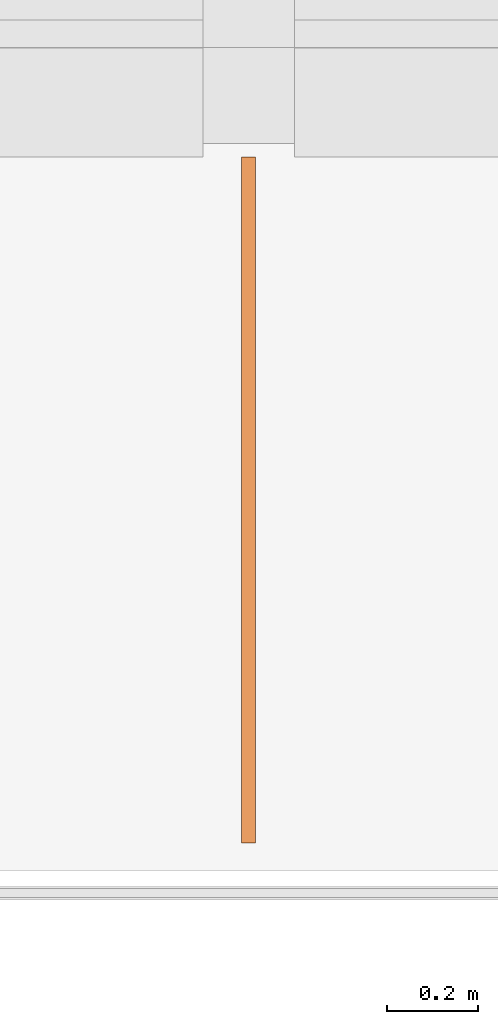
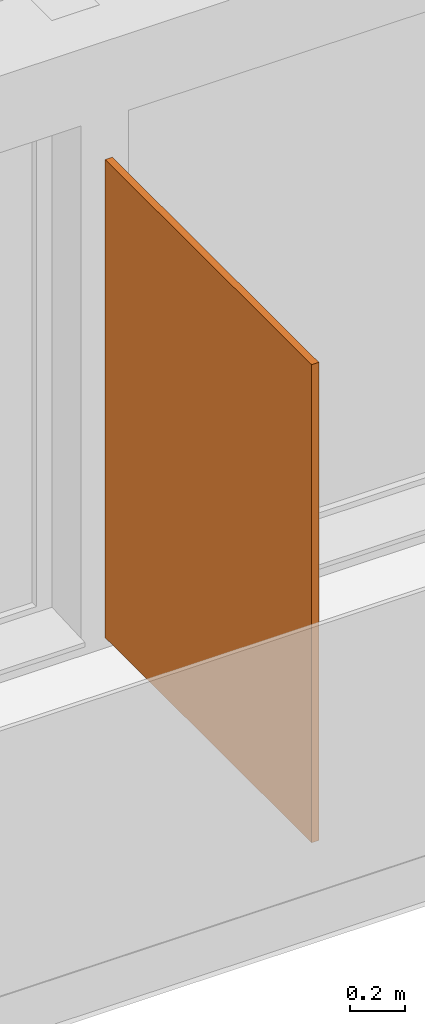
# One storey, part 24 of 61: 1 proxy.
"""IFC2X3 building model written with IfcOpenShell, lengths in millimetres."""

import ifcopenshell
import ifcopenshell.guid

model = None  # the IFC model being written
_history = None  # IfcOwnerHistory: only IFC2X3 demands one
_inside = {}  # id of a spatial element -> (the spatial element, [elements in it])
_under = {}  # id of a project, library or spatial element -> (it, [spatial elements below it])
_declared = {}  # id of a project -> (the project, [libraries it declares])
_typed = {}  # id of a type object -> (the type object, [elements of that type])
_made_of = {}  # id of a material, layer set ... -> (it, [elements and type objects made of it])


def new_model(schema):
    """Start an empty IFC model of exactly this schema.

    Asked for "IFC4X3", IfcOpenShell would pick the latest addendum, in which some entities
    have other attributes; the version numbers below select the first issue.
    IFC2X3 requires an IfcOwnerHistory on every rooted entity: one is made here for all.
    """
    global model, _history
    if schema == "IFC4X3":
        model = ifcopenshell.file(schema_version=(4, 3, 0, 0))
    else:
        model = ifcopenshell.file(schema=schema)
    _inside.clear()
    _under.clear()
    _declared.clear()
    _typed.clear()
    _made_of.clear()
    _history = None
    if model.schema == "IFC2X3":
        org = make("IfcOrganization", Name="unknown")
        user = make(
            "IfcPersonAndOrganization",
            ThePerson=make("IfcPerson", FamilyName="unknown"),
            TheOrganization=org,
        )
        app = make(
            "IfcApplication",
            ApplicationDeveloper=org,
            Version="unknown",
            ApplicationFullName="unknown",
            ApplicationIdentifier="unknown",
        )
        _history = make(
            "IfcOwnerHistory",
            OwningUser=user,
            OwningApplication=app,
            ChangeAction="ADDED",
            CreationDate=0,
        )
    return model


def make(cls, **values):
    """One entity of the class cls with the attributes given. An attribute that is None is left unset."""
    return model.create_entity(
        cls, **{name: value for name, value in values.items() if value is not None}
    )


def entity(cls, *values):
    """Any entity or typed value of the class cls, its attributes in the order of the schema. None: left unset."""
    e = model.create_entity(cls)
    for i, value in enumerate(values):
        if value is not None:
            e[i] = value
    return e


def rooted(cls, **values):
    """An entity with a GlobalId (a new one), such as an element, a storey or a relation."""
    return make(cls, GlobalId=ifcopenshell.guid.new(), OwnerHistory=_history, **values)


def si_unit(unit_type, name, prefix=None):
    """IfcSIUnit, for example si_unit("LENGTHUNIT", "METRE", prefix="MILLI")."""
    return make("IfcSIUnit", UnitType=unit_type, Prefix=prefix, Name=name)


def converted_unit(unit_type, name, factor, base, dimensions=None, offset=None):
    """IfcConversionBasedUnit, such as the inch: factor (a typed value) times the base unit."""
    return make(
        "IfcConversionBasedUnit"
        if offset is None
        else "IfcConversionBasedUnitWithOffset",
        ConversionOffset=offset,
        Dimensions=None
        if dimensions is None
        else entity("IfcDimensionalExponents", *dimensions),
        UnitType=unit_type,
        Name=name,
        ConversionFactor=make(
            "IfcMeasureWithUnit", ValueComponent=factor, UnitComponent=base
        ),
    )


def derived_unit(unit_type, elements):
    """IfcDerivedUnit: a product of units, each with its exponent."""
    return make(
        "IfcDerivedUnit",
        Elements=[
            make("IfcDerivedUnitElement", Unit=unit, Exponent=power)
            for unit, power in elements
        ],
        UnitType=unit_type,
    )


def money_unit(currency):
    """IfcMonetaryUnit."""
    return make("IfcMonetaryUnit", Currency=currency)


def assignment(units):
    """IfcUnitAssignment: the units of a project."""
    return None if units is None else make("IfcUnitAssignment", Units=units)


def point(xyz):
    """IfcCartesianPoint."""
    return None if xyz is None else make("IfcCartesianPoint", Coordinates=xyz)


def direction(xyz):
    """IfcDirection."""
    return None if xyz is None else make("IfcDirection", DirectionRatios=xyz)


def frame(location, z_axis=None, x_axis=None):
    """IfcAxis2Placement3D, a coordinate frame: its origin and axes. An axis left out is left unset."""
    return make(
        "IfcAxis2Placement3D",
        Location=point(location),
        Axis=direction(z_axis),
        RefDirection=direction(x_axis),
    )


def origin_with_axes():
    """The frame at (0, 0, 0) with the z axis (0, 0, 1) and the x axis (1, 0, 0) written out."""
    return frame((0.0, 0.0, 0.0), z_axis=(0.0, 0.0, 1.0), x_axis=(1.0, 0.0, 0.0))


def place(relative_to, where):
    """IfcLocalPlacement: puts the frame where relative to a parent placement (None: the world)."""
    return make(
        "IfcLocalPlacement", PlacementRelTo=relative_to, RelativePlacement=where
    )


def context(
    kind, dimensions, precision=None, world=None, true_north=None, identifier=None
):
    """IfcGeometricRepresentationContext, for example the 3D "Model" context."""
    return make(
        "IfcGeometricRepresentationContext",
        ContextIdentifier=identifier,
        ContextType=kind,
        CoordinateSpaceDimension=dimensions,
        Precision=precision,
        WorldCoordinateSystem=world,
        TrueNorth=true_north,
    )


def subcontext(parent, identifier, kind, view, scale=None):
    """IfcGeometricRepresentationSubContext, for example "Body" below "Model"."""
    return make(
        "IfcGeometricRepresentationSubContext",
        ContextIdentifier=identifier,
        ContextType=kind,
        ParentContext=parent,
        TargetScale=scale,
        TargetView=view,
    )


def project(units=None, contexts=None):
    """IfcProject with its units and contexts."""
    return rooted(
        "IfcProject",
        Name="project",
        RepresentationContexts=contexts,
        UnitsInContext=assignment(units),
    )


def spatial(cls, under=None, at=None, **own):
    """A site, building, storey or space (cls), placed at a placement, below another one or the project."""
    s = rooted(cls, ObjectPlacement=at, **own)
    if under is not None:
        _under.setdefault(under.id(), (under, []))[1].append(s)
    return s


def polyline(points):
    """IfcPolyline through the points."""
    return make("IfcPolyline", Points=[point(p) for p in points])


def outline(outer, holes=None, kind="AREA"):
    """IfcArbitraryClosedProfileDef: a profile drawn as a closed curve; with holes, ...WithVoids."""
    if holes is None:
        return make("IfcArbitraryClosedProfileDef", ProfileType=kind, OuterCurve=outer)
    return make(
        "IfcArbitraryProfileDefWithVoids",
        ProfileType=kind,
        OuterCurve=outer,
        InnerCurves=holes,
    )


def extrude(swept, where, along, depth):
    """IfcExtrudedAreaSolid: the profile swept, set in the frame where, extruded along a direction by depth."""
    return make(
        "IfcExtrudedAreaSolid",
        SweptArea=swept,
        Position=where,
        ExtrudedDirection=direction(along),
        Depth=depth,
    )


def shape(context_of_items, identifier, shape_type, items):
    """IfcShapeRepresentation: the items that make up one representation, for example the "Body"."""
    return make(
        "IfcShapeRepresentation",
        ContextOfItems=context_of_items,
        RepresentationIdentifier=identifier,
        RepresentationType=shape_type,
        Items=items,
    )


def material(Name=None, Category=None):
    """IfcMaterial."""
    return make("IfcMaterial", Name=Name, Category=Category)


def made_of(thing, what):
    """Note that an element or type object is made of a material, layer set ...; save() writes the relation."""
    if what is not None:
        _made_of.setdefault(what.id(), (what, []))[1].append(thing)
    return thing


def type_object(cls, material=None, **own):
    """A type object (cls), such as IfcWallType, which elements share."""
    return made_of(rooted(cls, **own), material)


def element(
    cls,
    number,
    at=None,
    inside=None,
    cuts=None,
    type_object=None,
    material=None,
    context=None,
    identifier="Body",
    shape_type=None,
    held_by="IfcProductDefinitionShape",
    body=None,
    shapes=None,
    **own,
):
    """One element of the class cls, such as IfcWall. Its Tag is "e" and its number.

    at: its placement. inside: the storey or other place that contains it. cuts: it is an
    opening in that element (IfcRelVoidsElement). A single representation is given by context,
    identifier, shape_type and body (its items); several are given by shapes. held_by: the class
    of the entity that holds the representations. save() writes the other relations.
    """
    e = rooted(cls, Tag="e%d" % number, ObjectPlacement=at, **own)
    if body is not None:
        shapes = [shape(context, identifier, shape_type, body)]
    if shapes is not None:
        e.Representation = make(held_by, Representations=shapes)
    if inside is not None:
        _inside.setdefault(inside.id(), (inside, []))[1].append(e)
    if cuts is not None:
        rooted(
            "IfcRelVoidsElement", RelatingBuildingElement=cuts, RelatedOpeningElement=e
        )
    if type_object is not None:
        _typed.setdefault(type_object.id(), (type_object, []))[1].append(e)
    return made_of(e, material)


def aggregate(whole, parts):
    """IfcRelAggregates: a whole, such as a stair, and the parts it consists of."""
    return rooted("IfcRelAggregates", RelatingObject=whole, RelatedObjects=parts)


def save(model, path):
    """Write the relations noted so far, then the file.

    IfcRelAggregates (storeys below a building ...), IfcRelContainedInSpatialStructure (elements
    in a storey), IfcRelDefinesByType, IfcRelAssociatesMaterial and IfcRelDeclares: one each for
    every whole, place, type object, material and project.
    """
    for whole, parts in _under.values():
        aggregate(whole, parts)
    for where, things in _inside.values():
        rooted(
            "IfcRelContainedInSpatialStructure",
            RelatedElements=things,
            RelatingStructure=where,
        )
    for kind, things in _typed.values():
        rooted("IfcRelDefinesByType", RelatedObjects=things, RelatingType=kind)
    for what, things in _made_of.values():
        rooted("IfcRelAssociatesMaterial", RelatedObjects=things, RelatingMaterial=what)
    for by, libraries in _declared.values():
        rooted("IfcRelDeclares", RelatingContext=by, RelatedDefinitions=libraries)
    model.write(path)


model = new_model("IFC2X3")

# Units and contexts
model_context = context("Model", 3, precision=0.01, world=origin_with_axes(), true_north=direction((0.34421633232, 0.938890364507)))
body_context = subcontext(model_context, "Body", "Model", "MODEL_VIEW")
ifc_project = project(units=[si_unit("LENGTHUNIT", "METRE", prefix="MILLI"), si_unit("AREAUNIT", "SQUARE_METRE"), si_unit("VOLUMEUNIT", "CUBIC_METRE"), converted_unit("PLANEANGLEUNIT", "DEGREE", entity("IfcPlaneAngleMeasure", 0.0174532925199), si_unit("PLANEANGLEUNIT", "RADIAN"), dimensions=[0, 0, 0, 0, 0, 0, 0]), si_unit("SOLIDANGLEUNIT", "STERADIAN"), money_unit("USD"), converted_unit("TIMEUNIT", "Year", entity("IfcTimeMeasure", 31556926.0), si_unit("TIMEUNIT", "SECOND"), dimensions=[0, 0, 1, 0, 0, 0, 0]), si_unit("MASSUNIT", "GRAM", prefix="KILO"), si_unit("THERMODYNAMICTEMPERATUREUNIT", "DEGREE_CELSIUS"), si_unit("LUMINOUSINTENSITYUNIT", "LUMEN"), si_unit("ENERGYUNIT", "JOULE", prefix="MEGA"), derived_unit("THERMALCONDUCTANCEUNIT", [(si_unit("POWERUNIT", "WATT"), 1), (si_unit("LENGTHUNIT", "METRE"), -1), (si_unit("THERMODYNAMICTEMPERATUREUNIT", "KELVIN"), -1)]), derived_unit("SPECIFICHEATCAPACITYUNIT", [(si_unit("ENERGYUNIT", "JOULE"), 1), (si_unit("MASSUNIT", "GRAM", prefix="KILO"), -1), (si_unit("THERMODYNAMICTEMPERATUREUNIT", "KELVIN"), -1)]), derived_unit("MASSDENSITYUNIT", [(si_unit("MASSUNIT", "GRAM", prefix="KILO"), 1), (si_unit("VOLUMEUNIT", "CUBIC_METRE"), -1)])], contexts=[model_context])

# Site, building, storey
site_placement = place(None, origin_with_axes())
site = spatial("IfcSite", under=ifc_project, at=site_placement, Name="USTRONIE MORSKIE", CompositionType="ELEMENT")
building_placement = place(site_placement, origin_with_axes())
building = spatial("IfcBuilding", under=site, at=building_placement, Name="Budynek", CompositionType="ELEMENT")
storey_placement = place(building_placement, frame((0.0, 0.0, 13000.0), z_axis=(0.0, 0.0, 1.0), x_axis=(1.0, 0.0, 0.0)))
storey = spatial("IfcBuildingStorey", under=building, at=storey_placement, Name="PIĘTRO 4", CompositionType="ELEMENT", Elevation=13000.0)

# Proxy
ifc_material = material(Name="Woda")
building_element_proxy_type = type_object("IfcBuildingElementProxyType", Name="Woda 30", PredefinedType="NOTDEFINED")
proxy_placement = place(storey_placement, frame((402317.920919, 726561.18631, 20.0), z_axis=(0.0, 0.0, 1.0), x_axis=(0.0, -1.0, 0.0)))
element("IfcBuildingElementProxy", 1, at=proxy_placement, inside=storey, type_object=building_element_proxy_type, material=ifc_material, Name="Œciana-007", context=body_context, shape_type="SweptSolid", body=[
    extrude(outline(polyline([(0.0, -15.0), (1500.0, -15.0), (1500.0, 15.0), (0.0, 15.0), (0.0, -15.0)])), origin_with_axes(), (0.0, 0.0, 1.0), 2120.0),
])

save(model, "model.ifc")
